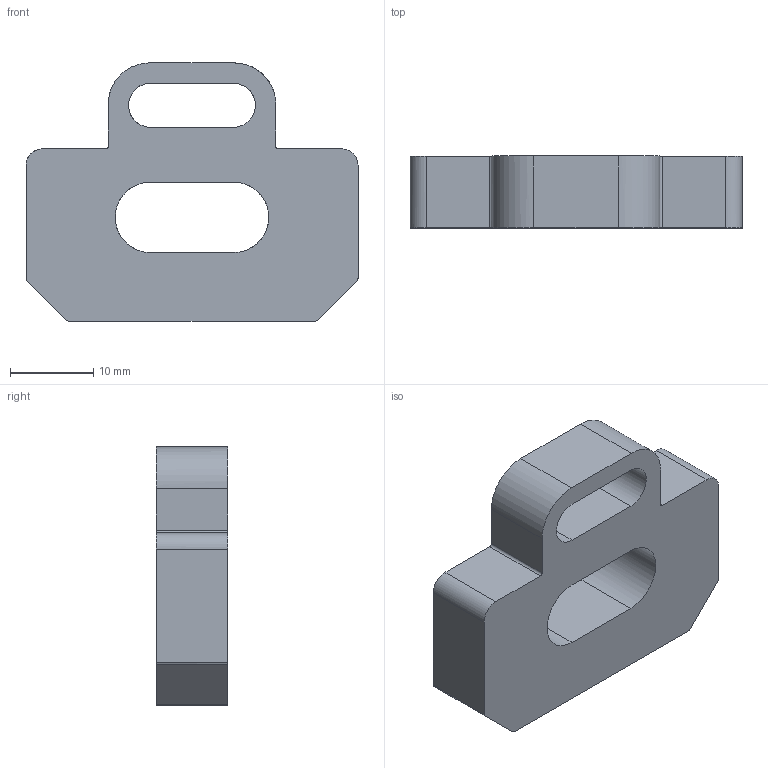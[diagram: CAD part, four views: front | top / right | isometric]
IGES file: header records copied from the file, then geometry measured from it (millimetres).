
Global section: file name: 2029616_A_PSEN ml DHM mounting bracket; native system: Autodesk Inventor 2020; preprocessor: unknown; author: mmus ; date: 20200731.075522; units: millimetre
Bounding box: 40 x 8.65 x 31.1 mm (x, y, z)
Volume: 6787.4 mm3; surface area: 3415.9 mm2
Topology: 1 solids, 1 shells, 30 faces, 84 edges, 56 vertices
Faces by surface type: bspline 30
